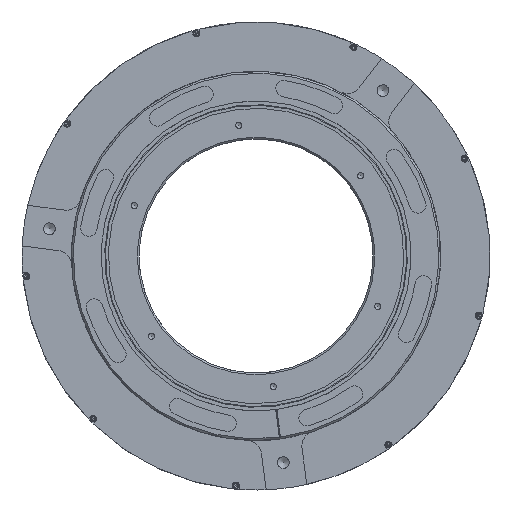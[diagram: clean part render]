
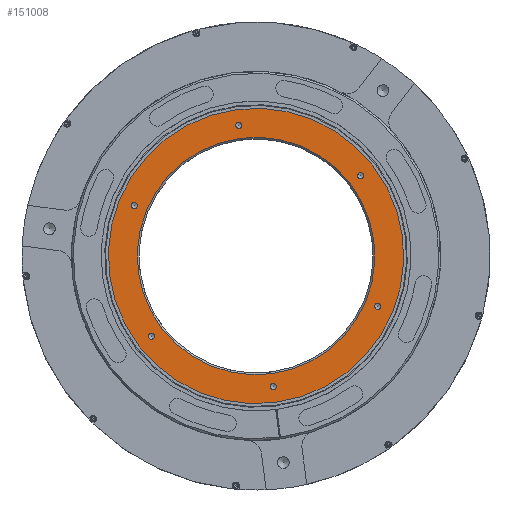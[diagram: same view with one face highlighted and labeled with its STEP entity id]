
A CAD part, front view. The second image highlights one B-rep face of the part: STEP entity #151008.
In plain terms, the highlighted planar face has unit normal (0, -1, 0).
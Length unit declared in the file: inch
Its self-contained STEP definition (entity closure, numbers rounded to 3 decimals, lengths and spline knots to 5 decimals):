
#1255 = EDGE_LOOP ( 'NONE', ( #10282 ) ) ;
#1659 = CARTESIAN_POINT ( 'NONE',  ( 0., 0.005, 0. ) ) ;
#2510 = ORIENTED_EDGE ( 'NONE', *, *, #178480, .F. ) ;
#2746 = AXIS2_PLACEMENT_3D ( 'NONE', #9244, #169311, #83262 ) ;
#3645 = CIRCLE ( 'NONE', #66723, 0.05325 ) ;
#5482 = AXIS2_PLACEMENT_3D ( 'NONE', #14459, #16277, #57575 ) ;
#6639 = CARTESIAN_POINT ( 'NONE',  ( 0.25183, 0.005, -2.26614 ) ) ;
#7080 = VERTEX_POINT ( 'NONE', #79269 ) ;
#9244 = CARTESIAN_POINT ( 'NONE',  ( 1.78743, 0.005, 1.37154 ) ) ;
#10282 = ORIENTED_EDGE ( 'NONE', *, *, #137882, .T. ) ;
#14459 = CARTESIAN_POINT ( 'NONE',  ( -0.29408, 0.005, 2.23373 ) ) ;
#16277 = DIRECTION ( 'NONE',  ( 0., -1., 0. ) ) ;
#20202 = ORIENTED_EDGE ( 'NONE', *, *, #90547, .F. ) ;
#22950 = ORIENTED_EDGE ( 'NONE', *, *, #167721, .F. ) ;
#23441 = CARTESIAN_POINT ( 'NONE',  ( 1.74518, 0.005, 1.33912 ) ) ;
#25076 = EDGE_LOOP ( 'NONE', ( #86593 ) ) ;
#25474 = ORIENTED_EDGE ( 'NONE', *, *, #43980, .T. ) ;
#29389 = FACE_BOUND ( 'NONE', #39572, .T. ) ;
#32652 = EDGE_LOOP ( 'NONE', ( #2510 ) ) ;
#34294 = CARTESIAN_POINT ( 'NONE',  ( -1.61071, 0.005, -1.23594 ) ) ;
#36575 = VERTEX_POINT ( 'NONE', #6639 ) ;
#37499 = VERTEX_POINT ( 'NONE', #164006 ) ;
#39572 = EDGE_LOOP ( 'NONE', ( #140020 ) ) ;
#43980 = EDGE_CURVE ( 'NONE', #60590, #60590, #180461, .T. ) ;
#44330 = EDGE_CURVE ( 'NONE', #7080, #7080, #52031, .T. ) ;
#45979 = DIRECTION ( 'NONE',  ( -0.793, 0., -0.609 ) ) ;
#49392 = AXIS2_PLACEMENT_3D ( 'NONE', #165834, #50687, #62950 ) ;
#50687 = DIRECTION ( 'NONE',  ( 0., -1., 0. ) ) ;
#52031 = CIRCLE ( 'NONE', #180590, 0.05325 ) ;
#52174 = CIRCLE ( 'NONE', #153856, 2.52475 ) ;
#53858 = EDGE_LOOP ( 'NONE', ( #22950 ) ) ;
#54772 = DIRECTION ( 'NONE',  ( 0., -1., 0. ) ) ;
#57521 = FACE_BOUND ( 'NONE', #107534, .T. ) ;
#57575 = DIRECTION ( 'NONE',  ( -0.793, 0., -0.609 ) ) ;
#60590 = VERTEX_POINT ( 'NONE', #34294 ) ;
#62017 = VERTEX_POINT ( 'NONE', #104072 ) ;
#62950 = DIRECTION ( 'NONE',  ( -0.793, 0., -0.609 ) ) ;
#66723 = AXIS2_PLACEMENT_3D ( 'NONE', #88148, #117118, #45979 ) ;
#69528 = AXIS2_PLACEMENT_3D ( 'NONE', #179042, #136844, #108731 ) ;
#69774 = FACE_OUTER_BOUND ( 'NONE', #1255, .T. ) ;
#69891 = DIRECTION ( 'NONE',  ( -0.793, 0., -0.609 ) ) ;
#70683 = DIRECTION ( 'NONE',  ( -0.793, 0., -0.609 ) ) ;
#73478 = AXIS2_PLACEMENT_3D ( 'NONE', #125892, #54772, #70683 ) ;
#78820 = CARTESIAN_POINT ( 'NONE',  ( -2.12375, 0.005, 0.82977 ) ) ;
#79269 = CARTESIAN_POINT ( 'NONE',  ( 2.03925, 0.005, -0.8946 ) ) ;
#82898 = FACE_BOUND ( 'NONE', #53858, .T. ) ;
#83262 = DIRECTION ( 'NONE',  ( -0.793, 0., -0.609 ) ) ;
#83917 = CARTESIAN_POINT ( 'NONE',  ( 0., 0.005, 0. ) ) ;
#86593 = ORIENTED_EDGE ( 'NONE', *, *, #173410, .F. ) ;
#88148 = CARTESIAN_POINT ( 'NONE',  ( 0.29408, 0.005, -2.23373 ) ) ;
#88265 = CIRCLE ( 'NONE', #49392, 0.05325 ) ;
#89177 = CIRCLE ( 'NONE', #5482, 0.05325 ) ;
#90547 = EDGE_CURVE ( 'NONE', #125941, #125941, #108325, .T. ) ;
#95833 = CARTESIAN_POINT ( 'NONE',  ( 2.0815, 0.005, -0.86219 ) ) ;
#100006 = DIRECTION ( 'NONE',  ( -0.793, 0., -0.609 ) ) ;
#100545 = PLANE ( 'NONE',  #73478 ) ;
#104072 = CARTESIAN_POINT ( 'NONE',  ( -2.00302, 0.005, -1.53697 ) ) ;
#107534 = EDGE_LOOP ( 'NONE', ( #25474 ) ) ;
#108325 = CIRCLE ( 'NONE', #69528, 0.05325 ) ;
#108731 = DIRECTION ( 'NONE',  ( -0.793, 0., -0.609 ) ) ;
#110937 = CARTESIAN_POINT ( 'NONE',  ( -1.82967, 0.005, -1.40396 ) ) ;
#115909 = DIRECTION ( 'NONE',  ( 0., -1., 0. ) ) ;
#117118 = DIRECTION ( 'NONE',  ( 0., -1., 0. ) ) ;
#119984 = VERTEX_POINT ( 'NONE', #78820 ) ;
#125892 = CARTESIAN_POINT ( 'NONE',  ( 1.21768, 0.005, -1.58691 ) ) ;
#125941 = VERTEX_POINT ( 'NONE', #110937 ) ;
#136844 = DIRECTION ( 'NONE',  ( 0., -1., 0. ) ) ;
#137882 = EDGE_CURVE ( 'NONE', #62017, #62017, #52174, .T. ) ;
#140020 = ORIENTED_EDGE ( 'NONE', *, *, #164328, .F. ) ;
#140929 = DIRECTION ( 'NONE',  ( 0., 1., 0. ) ) ;
#142090 = EDGE_LOOP ( 'NONE', ( #178827 ) ) ;
#151008 = ADVANCED_FACE ( 'NONE', ( #57521, #82898, #171708, #154003, #157711, #169885, #29389, #69774 ), #100545, .T. ) ;
#153856 = AXIS2_PLACEMENT_3D ( 'NONE', #1659, #115909, #100006 ) ;
#154003 = FACE_BOUND ( 'NONE', #25076, .T. ) ;
#155767 = DIRECTION ( 'NONE',  ( -0.793, 0., -0.609 ) ) ;
#156569 = AXIS2_PLACEMENT_3D ( 'NONE', #83917, #140929, #69891 ) ;
#157711 = FACE_BOUND ( 'NONE', #177462, .T. ) ;
#164006 = CARTESIAN_POINT ( 'NONE',  ( -0.33632, 0.005, 2.20131 ) ) ;
#164328 = EDGE_CURVE ( 'NONE', #37499, #37499, #89177, .T. ) ;
#165834 = CARTESIAN_POINT ( 'NONE',  ( -2.0815, 0.005, 0.86219 ) ) ;
#167721 = EDGE_CURVE ( 'NONE', #180771, #180771, #185238, .T. ) ;
#169311 = DIRECTION ( 'NONE',  ( 0., -1., 0. ) ) ;
#169885 = FACE_BOUND ( 'NONE', #32652, .T. ) ;
#171708 = FACE_BOUND ( 'NONE', #142090, .T. ) ;
#173410 = EDGE_CURVE ( 'NONE', #36575, #36575, #3645, .T. ) ;
#177462 = EDGE_LOOP ( 'NONE', ( #20202 ) ) ;
#178480 = EDGE_CURVE ( 'NONE', #119984, #119984, #88265, .T. ) ;
#178827 = ORIENTED_EDGE ( 'NONE', *, *, #44330, .F. ) ;
#179042 = CARTESIAN_POINT ( 'NONE',  ( -1.78743, 0.005, -1.37154 ) ) ;
#180461 = CIRCLE ( 'NONE', #156569, 2.03025 ) ;
#180590 = AXIS2_PLACEMENT_3D ( 'NONE', #95833, #181070, #155767 ) ;
#180771 = VERTEX_POINT ( 'NONE', #23441 ) ;
#181070 = DIRECTION ( 'NONE',  ( 0., -1., 0. ) ) ;
#185238 = CIRCLE ( 'NONE', #2746, 0.05325 ) ;
